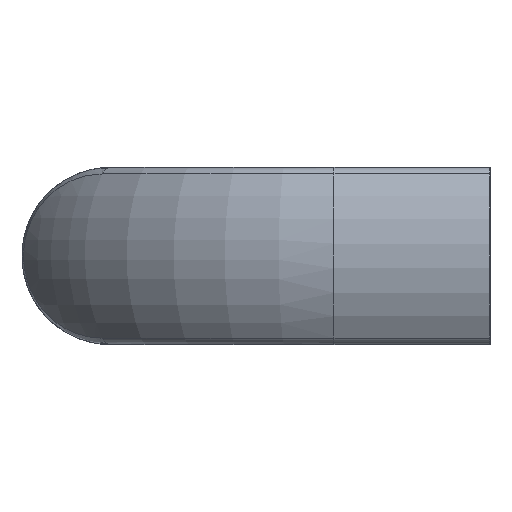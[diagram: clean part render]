
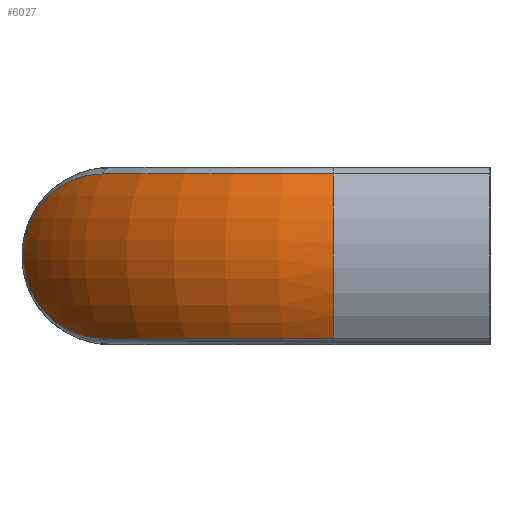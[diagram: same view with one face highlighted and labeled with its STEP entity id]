
A CAD part, left-side view. The second image highlights one B-rep face of the part: STEP entity #6027.
In plain terms, the highlighted toroidal (fillet/blend) face has major radius 27.419 mm and minor radius 21.531 mm.
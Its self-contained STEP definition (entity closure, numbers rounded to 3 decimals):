
#255 = CARTESIAN_POINT ( 'NONE',  ( -9.283, 54.71, 11.575 ) ) ;
#353 = CARTESIAN_POINT ( 'NONE',  ( -7.13, 56.854, 11.355 ) ) ;
#380 = CARTESIAN_POINT ( 'NONE',  ( -0.882, 63.925, 6.401 ) ) ;
#396 = VERTEX_POINT ( 'NONE', #1973 ) ;
#397 = CARTESIAN_POINT ( 'NONE',  ( 0.479, 65.666, -1.761 ) ) ;
#406 = AXIS2_PLACEMENT_3D ( 'NONE', #4261, #4303, #4369 ) ;
#415 = CARTESIAN_POINT ( 'NONE',  ( -3.502, 60.779, -9.68 ) ) ;
#606 = CIRCLE ( 'NONE', #406, 45.574 ) ;
#690 = CARTESIAN_POINT ( 'NONE',  ( -4.969, 22., 0. ) ) ;
#691 = EDGE_CURVE ( 'NONE', #989, #2666, #606, .T. ) ;
#702 = DIRECTION ( 'NONE',  ( 0., 1., 0. ) ) ;
#719 = DIRECTION ( 'NONE',  ( 0., 0., 1. ) ) ;
#804 = CARTESIAN_POINT ( 'NONE',  ( -9.283, 54.71, 11.575 ) ) ;
#834 = CARTESIAN_POINT ( 'NONE',  ( -6.239, 57.779, 11.116 ) ) ;
#855 = CARTESIAN_POINT ( 'NONE',  ( -0.403, 64.529, 5.343 ) ) ;
#875 = CARTESIAN_POINT ( 'NONE',  ( 0.204, 65.309, -3.458 ) ) ;
#892 = EDGE_CURVE ( 'NONE', #396, #989, #4778, .T. ) ;
#898 = CARTESIAN_POINT ( 'NONE',  ( -4.566, 59.584, -10.378 ) ) ;
#989 = VERTEX_POINT ( 'NONE', #2619 ) ;
#1176 = CIRCLE ( 'NONE', #1830, 45.574 ) ;
#1299 = CARTESIAN_POINT ( 'NONE',  ( -5.081, 59.014, 10.669 ) ) ;
#1317 = CARTESIAN_POINT ( 'NONE',  ( -0.01, 65.032, 4.198 ) ) ;
#1341 = CARTESIAN_POINT ( 'NONE',  ( -0.421, 64.507, -5.387 ) ) ;
#1363 = CARTESIAN_POINT ( 'NONE',  ( -5.401, 58.671, -10.799 ) ) ;
#1366 = DIRECTION ( 'NONE',  ( -1., 0., 0. ) ) ;
#1764 = CARTESIAN_POINT ( 'NONE',  ( -8.655, 55.32, 11.575 ) ) ;
#1785 = CARTESIAN_POINT ( 'NONE',  ( -3.746, 60.504, 9.844 ) ) ;
#1807 = CARTESIAN_POINT ( 'NONE',  ( 0.289, 65.419, 2.978 ) ) ;
#1823 = CARTESIAN_POINT ( 'NONE',  ( -0.904, 63.898, -6.442 ) ) ;
#1830 = AXIS2_PLACEMENT_3D ( 'NONE', #5279, #5721, #5658 ) ;
#1848 = CARTESIAN_POINT ( 'NONE',  ( -6.842, 57.147, -11.303 ) ) ;
#1911 = ORIENTED_EDGE ( 'NONE', *, *, #691, .T. ) ;
#1973 = CARTESIAN_POINT ( 'NONE',  ( -23.124, 22., -11.575 ) ) ;
#2054 = EDGE_CURVE ( 'NONE', #5729, #396, #1176, .T. ) ;
#2280 = CARTESIAN_POINT ( 'NONE',  ( -2.995, 61.37, 9.224 ) ) ;
#2300 = CARTESIAN_POINT ( 'NONE',  ( 0.484, 65.674, 1.712 ) ) ;
#2320 = CARTESIAN_POINT ( 'NONE',  ( -1.46, 63.209, -7.397 ) ) ;
#2346 = CARTESIAN_POINT ( 'NONE',  ( -8.656, 55.319, -11.575 ) ) ;
#2374 = ORIENTED_EDGE ( 'NONE', *, *, #892, .T. ) ;
#2619 = CARTESIAN_POINT ( 'NONE',  ( -23.124, 22., 11.575 ) ) ;
#2666 = VERTEX_POINT ( 'NONE', #255 ) ;
#2669 = FACE_OUTER_BOUND ( 'NONE', #3627, .T. ) ;
#2756 = CARTESIAN_POINT ( 'NONE',  ( -2.055, 62.482, 8.246 ) ) ;
#2781 = CARTESIAN_POINT ( 'NONE',  ( 0.574, 65.79, 0.403 ) ) ;
#2800 = CARTESIAN_POINT ( 'NONE',  ( -2.088, 62.445, -8.259 ) ) ;
#2802 = CARTESIAN_POINT ( 'NONE',  ( 22.45, 22., 0. ) ) ;
#2979 = ORIENTED_EDGE ( 'NONE', *, *, #2054, .T. ) ;
#3239 = CARTESIAN_POINT ( 'NONE',  ( -8.037, 55.932, 11.521 ) ) ;
#3259 = CARTESIAN_POINT ( 'NONE',  ( -1.062, 63.701, 6.737 ) ) ;
#3271 = CARTESIAN_POINT ( 'NONE',  ( 0.553, 65.763, -0.9 ) ) ;
#3291 = CARTESIAN_POINT ( 'NONE',  ( -3.007, 61.353, -9.26 ) ) ;
#3295 = AXIS2_PLACEMENT_3D ( 'NONE', #2802, #4253, #1366 ) ;
#3627 = EDGE_LOOP ( 'NONE', ( #4461, #2979, #2374, #1911 ) ) ;
#3723 = CARTESIAN_POINT ( 'NONE',  ( -6.831, 57.162, 11.286 ) ) ;
#3740 = CARTESIAN_POINT ( 'NONE',  ( -0.554, 64.339, 5.705 ) ) ;
#3764 = CARTESIAN_POINT ( 'NONE',  ( 0.423, 65.593, -2.193 ) ) ;
#3787 = CARTESIAN_POINT ( 'NONE',  ( -4.293, 59.888, -10.215 ) ) ;
#4184 = CARTESIAN_POINT ( 'NONE',  ( -5.945, 58.09, 11.016 ) ) ;
#4212 = CARTESIAN_POINT ( 'NONE',  ( -0.132, 64.876, 4.59 ) ) ;
#4228 = CARTESIAN_POINT ( 'NONE',  ( -0.008, 65.034, -4.255 ) ) ;
#4246 = CARTESIAN_POINT ( 'NONE',  ( -5.12, 58.976, -10.67 ) ) ;
#4253 = DIRECTION ( 'NONE',  ( 0., 0., -1. ) ) ;
#4258 = AXIS2_PLACEMENT_3D ( 'NONE', #690, #702, #719 ) ;
#4261 = CARTESIAN_POINT ( 'NONE',  ( 22.45, 22., 11.575 ) ) ;
#4303 = DIRECTION ( 'NONE',  ( 0., 0., -1. ) ) ;
#4369 = DIRECTION ( 'NONE',  ( -1., 0., 0. ) ) ;
#4461 = ORIENTED_EDGE ( 'NONE', *, *, #4678, .T. ) ;
#4649 = CARTESIAN_POINT ( 'NONE',  ( -4.531, 59.619, 10.378 ) ) ;
#4660 = CARTESIAN_POINT ( 'NONE',  ( 0.201, 65.304, 3.389 ) ) ;
#4678 = EDGE_CURVE ( 'NONE', #2666, #5729, #4686, .T. ) ;
#4684 = CARTESIAN_POINT ( 'NONE',  ( -0.574, 64.313, -5.751 ) ) ;
#4686 = B_SPLINE_CURVE_WITH_KNOTS ( 'NONE', 3,
 ( #804, #1764, #3239, #353, #3723, #834, #4184, #1299, #4649, #1785, #5110, #2280, #5579, #2756, #6047, #3259, #380, #3740, #855, #4212, #1317, #4660, #1807, #5135, #2300, #5594, #2781, #6064, #3271, #397, #3764, #875, #4228, #1341, #4684, #1823, #5159, #2320, #5613, #2800, #6091, #3291, #415, #3787, #898, #4246, #1363, #4708, #1848, #5173, #2346, #5637 ),
 .UNSPECIFIED., .F., .F.,
 ( 4, 2, 2, 2, 2, 2, 2, 2, 2, 2, 2, 2, 2, 2, 2, 2, 2, 2, 2, 2, 2, 2, 2, 2, 2, 4 ),
 ( 0., 0.003, 0.004, 0.005, 0.008, 0.009, 0.01, 0.013, 0.014, 0.016, 0.017, 0.018, 0.02, 0.021, 0.022, 0.023, 0.026, 0.027, 0.029, 0.03, 0.031, 0.034, 0.035, 0.037, 0.039, 0.042 ),
 .UNSPECIFIED. ) ;
#4708 = CARTESIAN_POINT ( 'NONE',  ( -6.256, 57.757, -11.139 ) ) ;
#4768 = CARTESIAN_POINT ( 'NONE',  ( -9.283, 54.71, -11.575 ) ) ;
#4778 = CIRCLE ( 'NONE', #4258, 21.531 ) ;
#5110 = CARTESIAN_POINT ( 'NONE',  ( -3.492, 60.796, 9.649 ) ) ;
#5135 = CARTESIAN_POINT ( 'NONE',  ( 0.431, 65.603, 2.139 ) ) ;
#5159 = CARTESIAN_POINT ( 'NONE',  ( -1.081, 63.677, -6.771 ) ) ;
#5173 = CARTESIAN_POINT ( 'NONE',  ( -8.042, 55.928, -11.521 ) ) ;
#5279 = CARTESIAN_POINT ( 'NONE',  ( 22.45, 22., -11.575 ) ) ;
#5464 = TOROIDAL_SURFACE ( 'NONE', #3295, 27.419, 21.531 ) ;
#5579 = CARTESIAN_POINT ( 'NONE',  ( -2.753, 61.654, 8.993 ) ) ;
#5594 = CARTESIAN_POINT ( 'NONE',  ( 0.556, 65.767, 0.843 ) ) ;
#5613 = CARTESIAN_POINT ( 'NONE',  ( -1.661, 62.962, -7.694 ) ) ;
#5637 = CARTESIAN_POINT ( 'NONE',  ( -9.283, 54.71, -11.575 ) ) ;
#5658 = DIRECTION ( 'NONE',  ( 1., 0., 0. ) ) ;
#5721 = DIRECTION ( 'NONE',  ( 0., 0., 1. ) ) ;
#5729 = VERTEX_POINT ( 'NONE', #4768 ) ;
#6027 = ADVANCED_FACE ( 'NONE', ( #2669 ), #5464, .T. ) ;
#6047 = CARTESIAN_POINT ( 'NONE',  ( -1.631, 62.997, 7.686 ) ) ;
#6064 = CARTESIAN_POINT ( 'NONE',  ( 0.572, 65.788, -0.467 ) ) ;
#6091 = CARTESIAN_POINT ( 'NONE',  ( -2.312, 62.176, -8.524 ) ) ;
